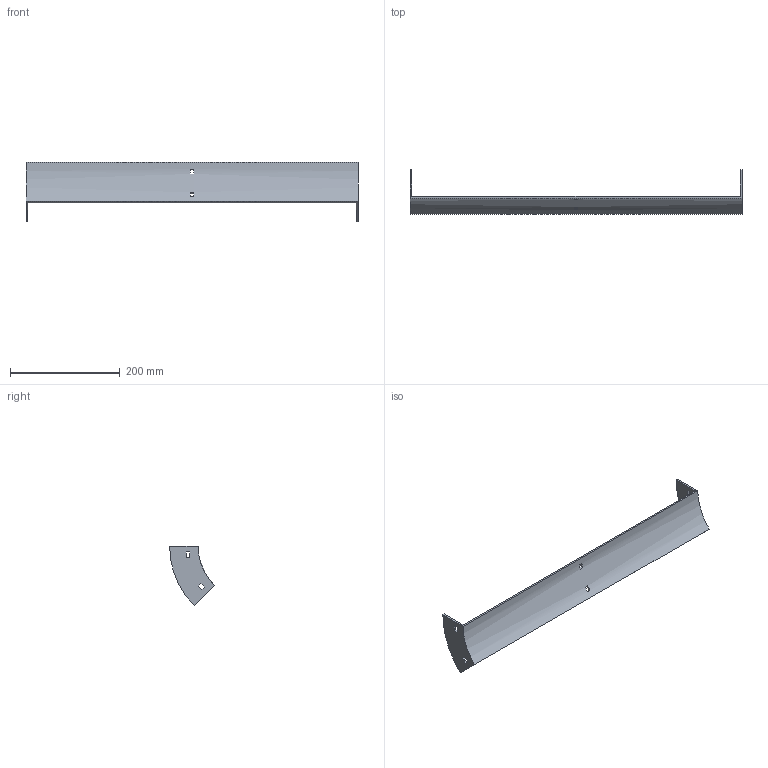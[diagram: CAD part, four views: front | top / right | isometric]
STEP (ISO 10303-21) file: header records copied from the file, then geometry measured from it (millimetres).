
FILE_DESCRIPTION (( 'STEP AP214' ), '1' );
FILE_NAME ('34B1B600.step', '2025-02-21T09:28:37', ( '' ), ( '' ), 'SwSTEP 2.0', 'SolidWorks 2023', '' );
FILE_SCHEMA (( 'AUTOMOTIVE_DESIGN' ));
Length unit declared in the file: millimetre
Products named in the file (1): 34B1B600
Bounding box: 604 x 81.29 x 107.48 mm (x, y, z)
Volume: 201607.2 mm3; surface area: 121633.2 mm2
Topology: 1 solids, 1 shells, 34 faces, 96 edges, 64 vertices
Faces by surface type: plane 30, cylinder 4
Entity records: 1143 total; most frequent: CARTESIAN_POINT 195, ORIENTED_EDGE 192, DIRECTION 182, EDGE_CURVE 96, LINE 80, VECTOR 80, VERTEX_POINT 64, AXIS2_PLACEMENT_3D 51
